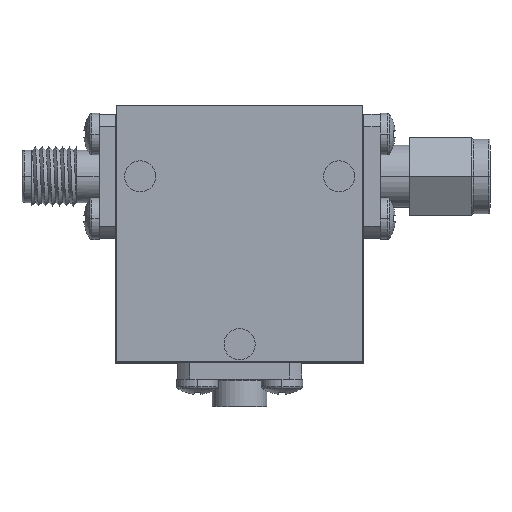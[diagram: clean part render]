
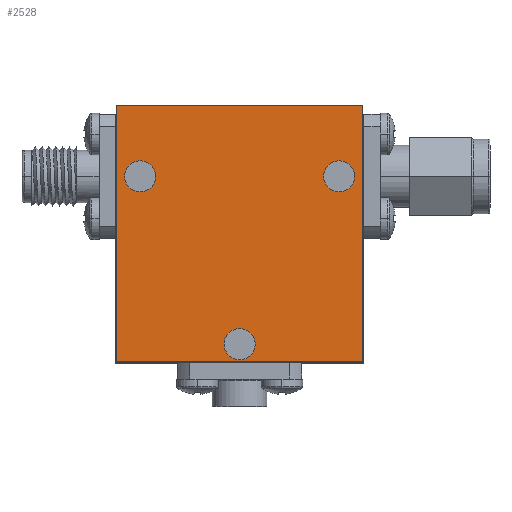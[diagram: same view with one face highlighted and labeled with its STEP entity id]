
A CAD part, top view. The second image highlights one B-rep face of the part: STEP entity #2528.
In plain terms, the highlighted planar face has unit normal (0, 0, 1).
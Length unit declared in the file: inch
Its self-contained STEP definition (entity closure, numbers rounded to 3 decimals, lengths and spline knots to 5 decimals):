
#193 = CIRCLE ( 'NONE', #2621, 0.0625 ) ;
#279 = VERTEX_POINT ( 'NONE', #6074 ) ;
#335 = ORIENTED_EDGE ( 'NONE', *, *, #6057, .F. ) ;
#450 = EDGE_CURVE ( 'NONE', #3729, #6124, #193, .T. ) ;
#640 = AXIS2_PLACEMENT_3D ( 'NONE', #3445, #6310, #1235 ) ;
#662 = FACE_BOUND ( 'NONE', #3518, .T. ) ;
#665 = VECTOR ( 'NONE', #5684, 39.37008 ) ;
#705 = EDGE_LOOP ( 'NONE', ( #5102, #844 ) ) ;
#740 = LINE ( 'NONE', #6592, #4402 ) ;
#819 = EDGE_CURVE ( 'NONE', #1426, #3654, #4575, .T. ) ;
#844 = ORIENTED_EDGE ( 'NONE', *, *, #4512, .F. ) ;
#1110 = EDGE_CURVE ( 'NONE', #2537, #3147, #5938, .T. ) ;
#1132 = AXIS2_PLACEMENT_3D ( 'NONE', #3802, #3253, #4299 ) ;
#1157 = CARTESIAN_POINT ( 'NONE',  ( -0.495, -0.515, 0.574 ) ) ;
#1235 = DIRECTION ( 'NONE',  ( 1., 0., 0. ) ) ;
#1262 = DIRECTION ( 'NONE',  ( 0., 0., 1. ) ) ;
#1284 = VERTEX_POINT ( 'NONE', #5440 ) ;
#1426 = VERTEX_POINT ( 'NONE', #2197 ) ;
#1464 = EDGE_CURVE ( 'NONE', #279, #3054, #4805, .T. ) ;
#1533 = ORIENTED_EDGE ( 'NONE', *, *, #3898, .T. ) ;
#1652 = CARTESIAN_POINT ( 'NONE',  ( -0.495, 0.515, 0.574 ) ) ;
#1684 = CARTESIAN_POINT ( 'NONE',  ( 0.495, -0.515, 0.574 ) ) ;
#1744 = ORIENTED_EDGE ( 'NONE', *, *, #5184, .F. ) ;
#1769 = CIRCLE ( 'NONE', #5957, 0.0625 ) ;
#2025 = PLANE ( 'NONE',  #3294 ) ;
#2197 = CARTESIAN_POINT ( 'NONE',  ( 0.495, 0.515, 0.574 ) ) ;
#2262 = VECTOR ( 'NONE', #5930, 39.37008 ) ;
#2269 = DIRECTION ( 'NONE',  ( 1., 0., 0. ) ) ;
#2361 = CARTESIAN_POINT ( 'NONE',  ( -0.495, -0.515, 0.574 ) ) ;
#2488 = ORIENTED_EDGE ( 'NONE', *, *, #2938, .T. ) ;
#2528 = ADVANCED_FACE ( 'NONE', ( #5137, #662, #3861, #4971 ), #2025, .F. ) ;
#2537 = VERTEX_POINT ( 'NONE', #2588 ) ;
#2569 = CARTESIAN_POINT ( 'NONE',  ( 0.0625, -0.445, 0.574 ) ) ;
#2588 = CARTESIAN_POINT ( 'NONE',  ( -0.3375, 0.23, 0.574 ) ) ;
#2621 = AXIS2_PLACEMENT_3D ( 'NONE', #4003, #3981, #6542 ) ;
#2629 = CARTESIAN_POINT ( 'NONE',  ( -0.4625, 0.23, 0.574 ) ) ;
#2872 = EDGE_LOOP ( 'NONE', ( #5395, #335 ) ) ;
#2938 = EDGE_CURVE ( 'NONE', #6379, #1426, #740, .T. ) ;
#3054 = VERTEX_POINT ( 'NONE', #5648 ) ;
#3082 = DIRECTION ( 'NONE',  ( 0., 0., 1. ) ) ;
#3126 = CARTESIAN_POINT ( 'NONE',  ( 0., 0., 0.574 ) ) ;
#3147 = VERTEX_POINT ( 'NONE', #2629 ) ;
#3253 = DIRECTION ( 'NONE',  ( 0., 0., 1. ) ) ;
#3267 = CARTESIAN_POINT ( 'NONE',  ( -0.0625, -0.445, 0.574 ) ) ;
#3276 = CARTESIAN_POINT ( 'NONE',  ( -0.4, 0.23, 0.574 ) ) ;
#3294 = AXIS2_PLACEMENT_3D ( 'NONE', #3126, #5095, #5602 ) ;
#3305 = CIRCLE ( 'NONE', #640, 0.0625 ) ;
#3445 = CARTESIAN_POINT ( 'NONE',  ( 0., -0.445, 0.574 ) ) ;
#3518 = EDGE_LOOP ( 'NONE', ( #1744, #6426 ) ) ;
#3526 = CARTESIAN_POINT ( 'NONE',  ( -0.495, 0.515, 0.574 ) ) ;
#3585 = DIRECTION ( 'NONE',  ( 1., 0., 0. ) ) ;
#3630 = LINE ( 'NONE', #2361, #2262 ) ;
#3648 = ORIENTED_EDGE ( 'NONE', *, *, #4156, .T. ) ;
#3654 = VERTEX_POINT ( 'NONE', #3526 ) ;
#3703 = CIRCLE ( 'NONE', #4786, 0.0625 ) ;
#3729 = VERTEX_POINT ( 'NONE', #2569 ) ;
#3777 = LINE ( 'NONE', #1157, #5454 ) ;
#3802 = CARTESIAN_POINT ( 'NONE',  ( 0.4, 0.23, 0.574 ) ) ;
#3861 = FACE_BOUND ( 'NONE', #705, .T. ) ;
#3898 = EDGE_CURVE ( 'NONE', #1284, #6379, #3777, .T. ) ;
#3981 = DIRECTION ( 'NONE',  ( 0., 0., 1. ) ) ;
#4003 = CARTESIAN_POINT ( 'NONE',  ( 0., -0.445, 0.574 ) ) ;
#4066 = DIRECTION ( 'NONE',  ( 1., 0., 0. ) ) ;
#4156 = EDGE_CURVE ( 'NONE', #3654, #1284, #3630, .T. ) ;
#4299 = DIRECTION ( 'NONE',  ( 1., 0., 0. ) ) ;
#4402 = VECTOR ( 'NONE', #6535, 39.37008 ) ;
#4512 = EDGE_CURVE ( 'NONE', #3147, #2537, #3703, .T. ) ;
#4575 = LINE ( 'NONE', #1652, #665 ) ;
#4593 = CARTESIAN_POINT ( 'NONE',  ( -0.4, 0.23, 0.574 ) ) ;
#4734 = AXIS2_PLACEMENT_3D ( 'NONE', #4593, #5662, #3585 ) ;
#4786 = AXIS2_PLACEMENT_3D ( 'NONE', #3276, #1262, #2269 ) ;
#4805 = CIRCLE ( 'NONE', #1132, 0.0625 ) ;
#4862 = EDGE_LOOP ( 'NONE', ( #2488, #6243, #3648, #1533 ) ) ;
#4971 = FACE_OUTER_BOUND ( 'NONE', #4862, .T. ) ;
#5095 = DIRECTION ( 'NONE',  ( 0., 0., -1. ) ) ;
#5102 = ORIENTED_EDGE ( 'NONE', *, *, #1110, .F. ) ;
#5137 = FACE_BOUND ( 'NONE', #2872, .T. ) ;
#5184 = EDGE_CURVE ( 'NONE', #3054, #279, #1769, .T. ) ;
#5395 = ORIENTED_EDGE ( 'NONE', *, *, #450, .F. ) ;
#5440 = CARTESIAN_POINT ( 'NONE',  ( -0.495, -0.515, 0.574 ) ) ;
#5454 = VECTOR ( 'NONE', #6247, 39.37008 ) ;
#5602 = DIRECTION ( 'NONE',  ( -1., 0., 0. ) ) ;
#5648 = CARTESIAN_POINT ( 'NONE',  ( 0.4625, 0.23, 0.574 ) ) ;
#5662 = DIRECTION ( 'NONE',  ( 0., 0., 1. ) ) ;
#5684 = DIRECTION ( 'NONE',  ( -1., 0., 0. ) ) ;
#5930 = DIRECTION ( 'NONE',  ( 0., -1., 0. ) ) ;
#5938 = CIRCLE ( 'NONE', #4734, 0.0625 ) ;
#5957 = AXIS2_PLACEMENT_3D ( 'NONE', #6595, #3082, #4066 ) ;
#6057 = EDGE_CURVE ( 'NONE', #6124, #3729, #3305, .T. ) ;
#6074 = CARTESIAN_POINT ( 'NONE',  ( 0.3375, 0.23, 0.574 ) ) ;
#6124 = VERTEX_POINT ( 'NONE', #3267 ) ;
#6243 = ORIENTED_EDGE ( 'NONE', *, *, #819, .T. ) ;
#6247 = DIRECTION ( 'NONE',  ( 1., 0., 0. ) ) ;
#6310 = DIRECTION ( 'NONE',  ( 0., 0., 1. ) ) ;
#6379 = VERTEX_POINT ( 'NONE', #1684 ) ;
#6426 = ORIENTED_EDGE ( 'NONE', *, *, #1464, .F. ) ;
#6535 = DIRECTION ( 'NONE',  ( 0., 1., 0. ) ) ;
#6542 = DIRECTION ( 'NONE',  ( 1., 0., 0. ) ) ;
#6592 = CARTESIAN_POINT ( 'NONE',  ( 0.495, -0.515, 0.574 ) ) ;
#6595 = CARTESIAN_POINT ( 'NONE',  ( 0.4, 0.23, 0.574 ) ) ;
